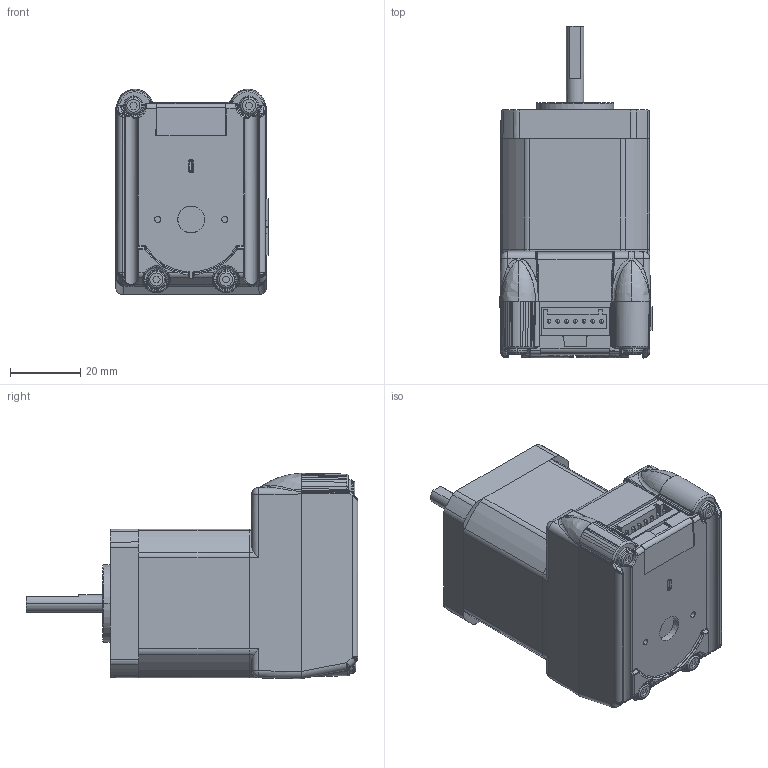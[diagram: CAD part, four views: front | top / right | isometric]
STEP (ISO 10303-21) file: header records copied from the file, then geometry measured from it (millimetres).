
FILE_DESCRIPTION(('MDrive17 Plus Standard Motor, Triple Stack'),'1');
FILE_NAME('MDrive17 Plus Standard Motor, Triple Stack.stp',' ',('P. Bordua, C.I.D.'),('Intelligent Motion Systems, Inc.'),'ACIS Interop R17','Kubotek KeyCreator V7.0.0 (5795)','Kubotek USA, Inc.');
FILE_SCHEMA(('automotive_design'));
Length unit declared in the file: inch
Products named in the file (3): MDrive17 Plus[9]
Bounding box: 43.22 x 94.23 x 58.31 mm (x, y, z)
Volume: 135337.2 mm3; surface area: 26749.5 mm2
Topology: 3 solids, 3 shells, 1264 faces, 3227 edges, 1991 vertices
Faces by surface type: plane 464, bspline 406, cylinder 259, torus 62, cone 49, sphere 24
Entity records: 115707 total; most frequent: CARTESIAN_POINT 49554, PRESENTATION_STYLE_ASSIGNMENT 7654, COLOUR_RGB 7654, STYLED_ITEM 6456, ORIENTED_EDGE 6402, CURVE_STYLE 4399, DRAUGHTING_PRE_DEFINED_CURVE_FONT 4399, DIRECTION 3403
